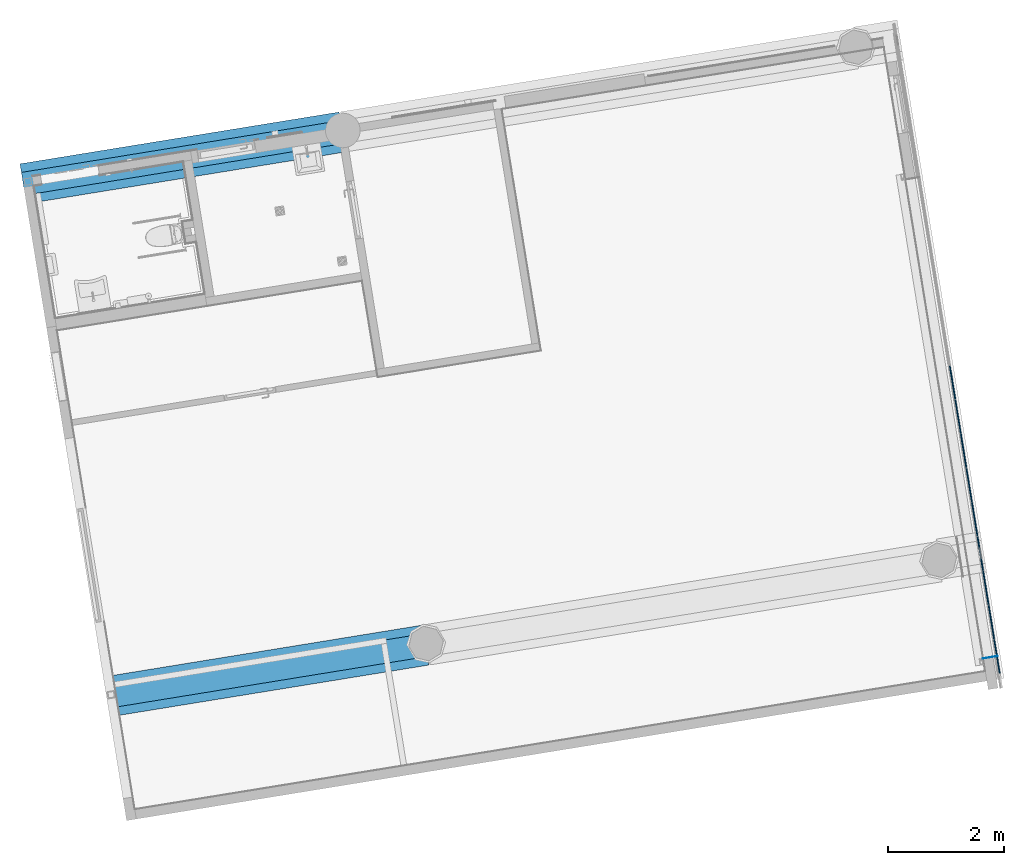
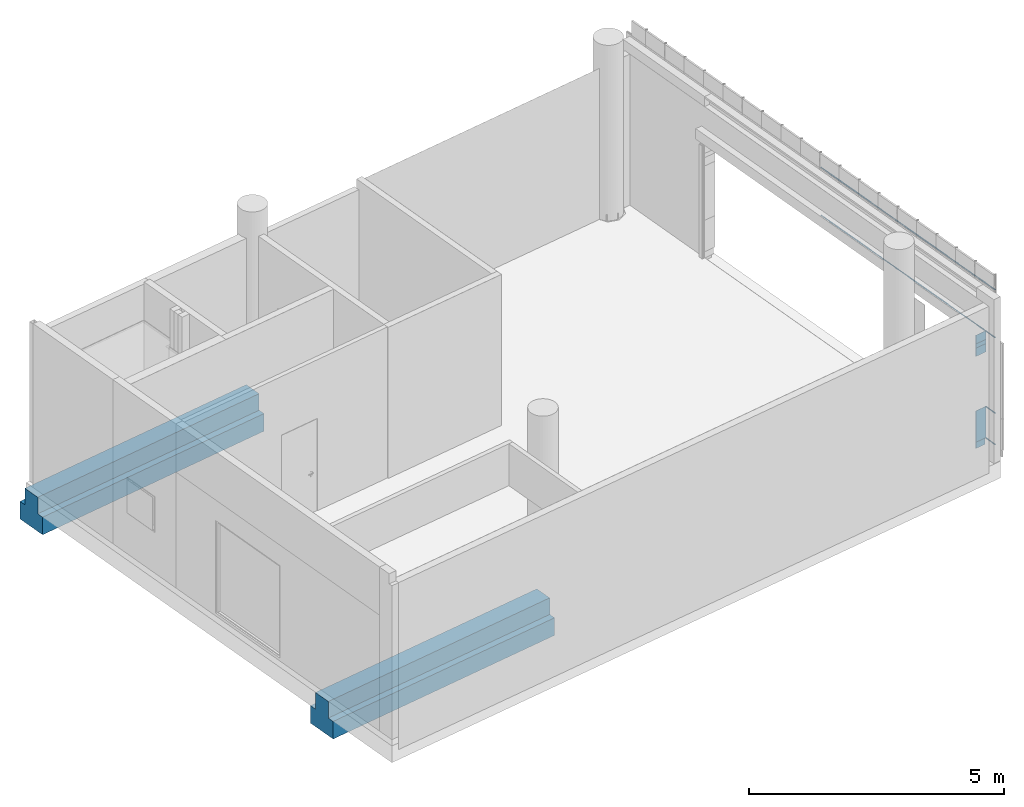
# One storey, part 12 of 38: 27 members, 2 beams, 1 element without a shape of its own.
"""IFC2X3 building model written with IfcOpenShell, lengths in millimetres."""

from ifc_helpers import new_model, entity, si_unit, converted_unit, derived_unit, direction, frame, frame_2d, origin, origin_with_axes, origin_2d_with_axis, place, context, subcontext, project, spatial, rectangle, extrude, faceted_brep, source, transform, mapped, material, type_object, element, aggregate, save


model = new_model("IFC2X3")

# Units and contexts
model_context = context("Model", 3, precision=0.01, world=origin(), true_north=direction((6.12323399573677e-17, 1.0)))
plan_context = context("Plan", 3, precision=1e-05, world=origin_with_axes())
body_context = subcontext(model_context, "Body", "Model", "MODEL_VIEW")
ifc_project = project(units=[converted_unit("PLANEANGLEUNIT", "DEGREE", entity("IfcPositiveLengthMeasure", 0.0174532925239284), si_unit("PLANEANGLEUNIT", "RADIAN"), dimensions=[0, 0, 0, 0, 0, 0, 0]), si_unit("AREAUNIT", "SQUARE_METRE"), si_unit("LENGTHUNIT", "METRE", prefix="MILLI"), si_unit("MASSUNIT", "GRAM", prefix="KILO"), si_unit("POWERUNIT", "WATT"), si_unit("PRESSUREUNIT", "PASCAL", prefix="KILO"), si_unit("FORCEUNIT", "NEWTON", prefix="KILO"), si_unit("ELECTRICVOLTAGEUNIT", "VOLT"), si_unit("ELECTRICCURRENTUNIT", "AMPERE"), si_unit("THERMODYNAMICTEMPERATUREUNIT", "DEGREE_CELSIUS"), si_unit("TIMEUNIT", "SECOND"), si_unit("VOLUMEUNIT", "CUBIC_METRE"), derived_unit("LINEARVELOCITYUNIT", [(si_unit("LENGTHUNIT", "METRE"), 1), (si_unit("TIMEUNIT", "SECOND"), -1)]), derived_unit("VOLUMETRICFLOWRATEUNIT", [(si_unit("VOLUMEUNIT", "CUBIC_METRE"), 1), (si_unit("TIMEUNIT", "SECOND"), -1)]), derived_unit("THERMALTRANSMITTANCEUNIT", [(si_unit("POWERUNIT", "WATT"), 1), (si_unit("THERMODYNAMICTEMPERATUREUNIT", "KELVIN"), -1), (si_unit("AREAUNIT", "SQUARE_METRE"), -1)]), derived_unit("SOUNDPRESSUREUNIT", [(si_unit("PRESSUREUNIT", "PASCAL"), 1)])], contexts=[model_context, plan_context])

# Site, building, storey
site_placement = place(None, frame((-0.00071070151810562, 0.00438415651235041, 0.0), z_axis=(0.0, 0.0, 1.0), x_axis=(-0.160236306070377, 0.987078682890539, 0.0)))
site = spatial("IfcSite", under=ifc_project, at=site_placement, Name="Default", CompositionType="ELEMENT")
building_placement = place(site_placement, origin_with_axes())
building = spatial("IfcBuilding", under=site, at=building_placement, Name="TOO", CompositionType="ELEMENT")
storey_placement = place(building_placement, frame((0.0, 0.0, 50999.9999999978), z_axis=(0.0, 0.0, 1.0), x_axis=(1.0, 0.0, 0.0)))
storey = spatial("IfcBuildingStorey", under=building, at=storey_placement, Name="Nivå D-H01", CompositionType="ELEMENT", Elevation=50999.9999999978)

# Curtain wall, members
curtain_wall_type = type_object("IfcCurtainWallType", Name="Curtain Wall:Curtain Wall Standard (Bruk kun denne)", PredefinedType="NOTDEFINED")
curtain_wall_placement = place(storey_placement, frame((0.0, 0.0, -50999.9999999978), z_axis=(0.0, 0.0, 1.0), x_axis=(1.0, 0.0, 0.0)))
curtain_wall = element("IfcCurtainWall", 1, at=curtain_wall_placement, inside=storey, type_object=curtain_wall_type, Name="Curtain Wall:Curtain Wall Standard (Bruk kun denne)", ObjectType="Curtain Wall:Curtain Wall Standard (Bruk kun denne)")
ifc_material_1 = material(Name="Rubber")
member_type_1 = type_object("IfcMemberType", Name="Rectangular Mullion:A246 - Fuge 5mm L09", PredefinedType="MULLION", material=ifc_material_1)
shared_shape_1 = source(origin(), body_context, "Body", "SweptSolid", [
    extrude(rectangle(XDim=5.0, YDim=20.0, at=origin_2d_with_axis()), frame((0.0, 10.0, -595.0), z_axis=(0.0, 0.0, 1.0), x_axis=(-1.0, 0.0, 0.0)), (0.0, 0.0, 1.0), 594.999999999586),
])
member_1_placement = place(curtain_wall_placement, frame((772980.119644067, -604232.480498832, 53704.9999999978), z_axis=(-1.0, 0.0, 0.0), x_axis=(0.0, 0.0, 1.0)))
member_1 = element("IfcMember", 2, at=member_1_placement, type_object=member_type_1, material=ifc_material_1, Name="Rectangular Mullion:A246 - Fuge 5mm L09", ObjectType="Rectangular Mullion:A246 - Fuge 5mm L09", context=body_context, shape_type="MappedRepresentation", body=[
    mapped(shared_shape_1, transform((0.0, 0.0, 0.0), scale=1.0)),
])
member_2_placement = place(curtain_wall_placement, frame((772380.119644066, -604232.480498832, 53704.9999999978), z_axis=(-1.0, 0.0, 0.0), x_axis=(0.0, 0.0, 1.0)))
member_2 = element("IfcMember", 3, at=member_2_placement, type_object=member_type_1, material=ifc_material_1, Name="Rectangular Mullion:A246 - Fuge 5mm L09", ObjectType="Rectangular Mullion:A246 - Fuge 5mm L09", context=body_context, shape_type="MappedRepresentation", body=[
    mapped(shared_shape_1, transform((0.0, 0.0, 0.0), scale=1.0)),
])
member_3_placement = place(curtain_wall_placement, frame((771780.119644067, -604232.480498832, 53704.9999999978), z_axis=(-1.0, 0.0, 0.0), x_axis=(0.0, 0.0, 1.0)))
member_3 = element("IfcMember", 4, at=member_3_placement, type_object=member_type_1, material=ifc_material_1, Name="Rectangular Mullion:A246 - Fuge 5mm L09", ObjectType="Rectangular Mullion:A246 - Fuge 5mm L09", context=body_context, shape_type="MappedRepresentation", body=[
    mapped(shared_shape_1, transform((0.0, 0.0, 0.0), scale=1.0)),
])
member_4_placement = place(curtain_wall_placement, frame((773580.119644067, -604232.480498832, 53704.9999999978), z_axis=(-1.0, 0.0, 0.0), x_axis=(0.0, 0.0, 1.0)))
member_4 = element("IfcMember", 5, at=member_4_placement, type_object=member_type_1, material=ifc_material_1, Name="Rectangular Mullion:A246 - Fuge 5mm L09", ObjectType="Rectangular Mullion:A246 - Fuge 5mm L09", context=body_context, shape_type="MappedRepresentation", body=[
    mapped(shared_shape_1, transform((0.0, 0.0, 0.0), scale=1.0)),
])
member_5_placement = place(curtain_wall_placement, frame((772980.119644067, -604232.480498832, 54850.0), z_axis=(-1.0, 0.0, 0.0), x_axis=(0.0, 0.0, 1.0)))
member_5 = element("IfcMember", 6, at=member_5_placement, type_object=member_type_1, material=ifc_material_1, Name="Rectangular Mullion:A246 - Fuge 5mm L09", ObjectType="Rectangular Mullion:A246 - Fuge 5mm L09", context=body_context, shape_type="MappedRepresentation", body=[
    mapped(shared_shape_1, transform((0.0, 0.0, 0.0), scale=1.0)),
])
member_6_placement = place(curtain_wall_placement, frame((772380.119644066, -604232.480498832, 54850.0), z_axis=(-1.0, 0.0, 0.0), x_axis=(0.0, 0.0, 1.0)))
member_6 = element("IfcMember", 7, at=member_6_placement, type_object=member_type_1, material=ifc_material_1, Name="Rectangular Mullion:A246 - Fuge 5mm L09", ObjectType="Rectangular Mullion:A246 - Fuge 5mm L09", context=body_context, shape_type="MappedRepresentation", body=[
    mapped(shared_shape_1, transform((0.0, 0.0, 0.0), scale=1.0)),
])
member_7_placement = place(curtain_wall_placement, frame((771180.119644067, -604232.480498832, 54850.0), z_axis=(-1.0, 0.0, 0.0), x_axis=(0.0, 0.0, 1.0)))
member_7 = element("IfcMember", 8, at=member_7_placement, type_object=member_type_1, material=ifc_material_1, Name="Rectangular Mullion:A246 - Fuge 5mm L09", ObjectType="Rectangular Mullion:A246 - Fuge 5mm L09", context=body_context, shape_type="MappedRepresentation", body=[
    mapped(shared_shape_1, transform((0.0, 0.0, 0.0), scale=1.0)),
])
member_8_placement = place(curtain_wall_placement, frame((770580.119644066, -604232.480498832, 54850.0), z_axis=(-1.0, 0.0, 0.0), x_axis=(0.0, 0.0, 1.0)))
member_8 = element("IfcMember", 9, at=member_8_placement, type_object=member_type_1, material=ifc_material_1, Name="Rectangular Mullion:A246 - Fuge 5mm L09", ObjectType="Rectangular Mullion:A246 - Fuge 5mm L09", context=body_context, shape_type="MappedRepresentation", body=[
    mapped(shared_shape_1, transform((0.0, 0.0, 0.0), scale=1.0)),
])
member_9_placement = place(curtain_wall_placement, frame((769380.119644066, -604232.480498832, 54850.0), z_axis=(-1.0, 0.0, 0.0), x_axis=(0.0, 0.0, 1.0)))
member_9 = element("IfcMember", 10, at=member_9_placement, type_object=member_type_1, material=ifc_material_1, Name="Rectangular Mullion:A246 - Fuge 5mm L09", ObjectType="Rectangular Mullion:A246 - Fuge 5mm L09", context=body_context, shape_type="MappedRepresentation", body=[
    mapped(shared_shape_1, transform((0.0, 0.0, 0.0), scale=1.0)),
])
member_10_placement = place(curtain_wall_placement, frame((771780.119644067, -604232.480498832, 54850.0), z_axis=(-1.0, 0.0, 0.0), x_axis=(0.0, 0.0, 1.0)))
member_10 = element("IfcMember", 11, at=member_10_placement, type_object=member_type_1, material=ifc_material_1, Name="Rectangular Mullion:A246 - Fuge 5mm L09", ObjectType="Rectangular Mullion:A246 - Fuge 5mm L09", context=body_context, shape_type="MappedRepresentation", body=[
    mapped(shared_shape_1, transform((0.0, 0.0, 0.0), scale=1.0)),
])
member_11_placement = place(curtain_wall_placement, frame((773580.119644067, -604232.480498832, 54850.0), z_axis=(-1.0, 0.0, 0.0), x_axis=(0.0, 0.0, 1.0)))
member_11 = element("IfcMember", 12, at=member_11_placement, type_object=member_type_1, material=ifc_material_1, Name="Rectangular Mullion:A246 - Fuge 5mm L09", ObjectType="Rectangular Mullion:A246 - Fuge 5mm L09", context=body_context, shape_type="MappedRepresentation", body=[
    mapped(shared_shape_1, transform((0.0, 0.0, 0.0), scale=1.0)),
])
member_12_placement = place(curtain_wall_placement, frame((769980.119644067, -604232.480498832, 54850.0), z_axis=(-1.0, 0.0, 0.0), x_axis=(0.0, 0.0, 1.0)))
member_12 = element("IfcMember", 13, at=member_12_placement, type_object=member_type_1, material=ifc_material_1, Name="Rectangular Mullion:A246 - Fuge 5mm L09", ObjectType="Rectangular Mullion:A246 - Fuge 5mm L09", context=body_context, shape_type="MappedRepresentation", body=[
    mapped(shared_shape_1, transform((0.0, 0.0, 0.0), scale=1.0)),
])
member_type_2 = type_object("IfcMemberType", Name="Rectangular Mullion:A246 - Fuge 5mm L09", PredefinedType="MULLION", material=ifc_material_1)
shared_shape_2 = source(origin(), body_context, "Body", "SweptSolid", [
    extrude(rectangle(XDim=5.0, YDim=20.0, at=origin_2d_with_axis()), frame((0.0, 10.0, -597.500000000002), z_axis=(0.0, 0.0, 1.0), x_axis=(-1.0, 0.0, 0.0)), (0.0, 0.0, 1.0), 597.500000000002),
])
member_13_placement = place(curtain_wall_placement, frame((771177.619644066, -604232.480498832, 53704.9999999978), z_axis=(-1.0, 0.0, 0.0), x_axis=(0.0, 0.0, 1.0)))
member_13 = element("IfcMember", 14, at=member_13_placement, type_object=member_type_2, material=ifc_material_1, Name="Rectangular Mullion:A246 - Fuge 5mm L09", ObjectType="Rectangular Mullion:A246 - Fuge 5mm L09", context=body_context, shape_type="MappedRepresentation", body=[
    mapped(shared_shape_2, transform((0.0, 0.0, 0.0), scale=1.0)),
])
member_type_3 = type_object("IfcMemberType", Name="Rectangular Mullion:A246 - Fuge 5mm L09", PredefinedType="MULLION", material=ifc_material_1)
shared_shape_3 = source(origin(), body_context, "Body", "SweptSolid", [
    extrude(rectangle(XDim=5.0, YDim=20.0, at=origin_2d_with_axis()), frame((0.0, 10.0, -600.0), z_axis=(0.0, 0.0, 1.0), x_axis=(-1.0, 0.0, 0.0)), (0.0, 0.0, 1.0), 600.000000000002),
])
member_14_placement = place(curtain_wall_placement, frame((770577.619644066, -604232.480498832, 53704.9999999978), z_axis=(-1.0, 0.0, 0.0), x_axis=(0.0, 0.0, 1.0)))
member_14 = element("IfcMember", 15, at=member_14_placement, type_object=member_type_3, material=ifc_material_1, Name="Rectangular Mullion:A246 - Fuge 5mm L09", ObjectType="Rectangular Mullion:A246 - Fuge 5mm L09", context=body_context, shape_type="MappedRepresentation", body=[
    mapped(shared_shape_3, transform((0.0, 0.0, 0.0), scale=1.0)),
])
member_15_placement = place(curtain_wall_placement, frame((769377.619644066, -604232.480498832, 53704.9999999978), z_axis=(-1.0, 0.0, 0.0), x_axis=(0.0, 0.0, 1.0)))
member_15 = element("IfcMember", 16, at=member_15_placement, type_object=member_type_3, material=ifc_material_1, Name="Rectangular Mullion:A246 - Fuge 5mm L09", ObjectType="Rectangular Mullion:A246 - Fuge 5mm L09", context=body_context, shape_type="MappedRepresentation", body=[
    mapped(shared_shape_3, transform((0.0, 0.0, 0.0), scale=1.0)),
])
member_16_placement = place(curtain_wall_placement, frame((769977.619644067, -604232.480498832, 53704.9999999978), z_axis=(-1.0, 0.0, 0.0), x_axis=(0.0, 0.0, 1.0)))
member_16 = element("IfcMember", 17, at=member_16_placement, type_object=member_type_3, material=ifc_material_1, Name="Rectangular Mullion:A246 - Fuge 5mm L09", ObjectType="Rectangular Mullion:A246 - Fuge 5mm L09", context=body_context, shape_type="MappedRepresentation", body=[
    mapped(shared_shape_3, transform((0.0, 0.0, 0.0), scale=1.0)),
])
ifc_material_2 = material(Name="A200 - Metall - Stål")
member_type_4 = type_object("IfcMemberType", Name="Rectangular Mullion:A248-M03 kantbeskyt. åpning 260", PredefinedType="MULLION", material=ifc_material_2)
shared_shape_4 = source(origin(), body_context, "Body", "SweptSolid", [
    extrude(rectangle(XDim=5.0, YDim=260.0, at=origin_2d_with_axis()), frame((0.0, 130.0, -100.0), z_axis=(0.0, 0.0, 1.0), x_axis=(-1.0, 0.0, 0.0)), (0.0, 0.0, 1.0), 100.000000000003),
])
member_17_placement = place(curtain_wall_placement, frame((769077.619644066, -604232.480498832, 53399.9999999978), z_axis=(0.0, 0.0, -1.0), x_axis=(-1.0, 0.0, 0.0)))
member_17 = element("IfcMember", 18, at=member_17_placement, type_object=member_type_4, material=ifc_material_2, Name="Rectangular Mullion:A248-M03 kantbeskyt. åpning 260", ObjectType="Rectangular Mullion:A248-M03 kantbeskyt. åpning 260", context=body_context, shape_type="MappedRepresentation", body=[
    mapped(shared_shape_4, transform((0.0, 0.0, 0.0), scale=1.0)),
])
member_type_5 = type_object("IfcMemberType", Name="Rectangular Mullion:A248-M03 kantbeskyt. åpning 260", PredefinedType="MULLION", material=ifc_material_2)
shared_shape_5 = source(origin(), body_context, "Body", "SweptSolid", [
    extrude(rectangle(XDim=5.0, YDim=260.0, at=origin_2d_with_axis()), frame((0.0, 130.0, -200.0), z_axis=(0.0, 0.0, 1.0), x_axis=(-1.0, 0.0, 0.0)), (0.0, 0.0, 1.0), 200.000000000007),
])
member_18_placement = place(curtain_wall_placement, frame((769077.619644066, -604232.480498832, 53199.9999999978), z_axis=(0.0, 0.0, -1.0), x_axis=(-1.0, 0.0, 0.0)))
member_18 = element("IfcMember", 19, at=member_18_placement, type_object=member_type_5, material=ifc_material_2, Name="Rectangular Mullion:A248-M03 kantbeskyt. åpning 260", ObjectType="Rectangular Mullion:A248-M03 kantbeskyt. åpning 260", context=body_context, shape_type="MappedRepresentation", body=[
    mapped(shared_shape_5, transform((0.0, 0.0, 0.0), scale=1.0)),
])
member_type_6 = type_object("IfcMemberType", Name="Rectangular Mullion:A248-M03 kantbeskyt. åpning 260", PredefinedType="MULLION", material=ifc_material_2)
shared_shape_6 = source(origin(), body_context, "Body", "SweptSolid", [
    extrude(rectangle(XDim=5.0, YDim=260.0, at=origin_2d_with_axis()), frame((0.0, 130.0, -750.0), z_axis=(0.0, 0.0, 1.0), x_axis=(-1.0, 0.0, 0.0)), (0.0, 0.0, 1.0), 750.000000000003),
])
member_19_placement = place(curtain_wall_placement, frame((769077.619644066, -604232.480498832, 51149.9999999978), z_axis=(0.0, 0.0, -1.0), x_axis=(-1.0, 0.0, 0.0)))
member_19 = element("IfcMember", 20, at=member_19_placement, type_object=member_type_6, material=ifc_material_2, Name="Rectangular Mullion:A248-M03 kantbeskyt. åpning 260", ObjectType="Rectangular Mullion:A248-M03 kantbeskyt. åpning 260", context=body_context, shape_type="MappedRepresentation", body=[
    mapped(shared_shape_6, transform((0.0, 0.0, 0.0), scale=1.0)),
])
member_type_7 = type_object("IfcMemberType", Name="Rectangular Mullion:A248-M03 kantbeskyt. åpning 230", PredefinedType="MULLION", material=ifc_material_2)
shared_shape_7 = source(origin(), body_context, "Body", "SweptSolid", [
    extrude(rectangle(XDim=5.0, YDim=230.0, at=frame_2d((0.0, -1.4210854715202e-14), x_axis=(1.0, 0.0))), frame((0.0, 145.0, -150.0), z_axis=(0.0, 0.0, 1.0), x_axis=(-1.0, 0.0, 0.0)), (0.0, 0.0, 1.0), 150.000000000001),
])
member_20_placement = place(curtain_wall_placement, frame((769077.619644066, -604232.480498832, 50999.9999999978), z_axis=(0.0, 0.0, -1.0), x_axis=(-1.0, 0.0, 0.0)))
member_20 = element("IfcMember", 21, at=member_20_placement, type_object=member_type_7, material=ifc_material_2, Name="Rectangular Mullion:A248-M03 kantbeskyt. åpning 230", ObjectType="Rectangular Mullion:A248-M03 kantbeskyt. åpning 230", context=body_context, shape_type="MappedRepresentation", body=[
    mapped(shared_shape_7, transform((0.0, 0.0, 0.0), scale=1.0)),
])
member_type_8 = type_object("IfcMemberType", Name="Rectangular Mullion:A248-M03 kantbeskyt. åpning 260", PredefinedType="MULLION", material=ifc_material_2)
shared_shape_8 = source(origin(), body_context, "Body", "SweptSolid", [
    extrude(rectangle(XDim=5.0, YDim=260.0, at=origin_2d_with_axis()), frame((0.0, 130.0, -207.499999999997), z_axis=(0.0, 0.0, 1.0), x_axis=(-1.0, 0.0, 0.0)), (0.0, 0.0, 1.0), 207.499999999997),
])
member_21_placement = place(curtain_wall_placement, frame((769077.619644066, -604232.480498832, 53499.9999999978), z_axis=(0.0, 0.0, -1.0), x_axis=(-1.0, 0.0, 0.0)))
member_21 = element("IfcMember", 22, at=member_21_placement, type_object=member_type_8, material=ifc_material_2, Name="Rectangular Mullion:A248-M03 kantbeskyt. åpning 260", ObjectType="Rectangular Mullion:A248-M03 kantbeskyt. åpning 260", context=body_context, shape_type="MappedRepresentation", body=[
    mapped(shared_shape_8, transform((0.0, 0.0, 0.0), scale=1.0)),
])
member_type_9 = type_object("IfcMemberType", Name="Rectangular Mullion:A246 - Fuge 5mm L09", PredefinedType="MULLION", material=ifc_material_1)
shared_shape_9 = source(origin(), body_context, "Body", "SweptSolid", [
    extrude(rectangle(XDim=5.0, YDim=20.0, at=origin_2d_with_axis()), frame((0.0, 10.0, -295.0), z_axis=(0.0, 0.0, 1.0), x_axis=(-1.0, 0.0, 0.0)), (0.0, 0.0, 1.0), 295.000000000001),
])
member_22_placement = place(curtain_wall_placement, frame((768780.119644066, -604232.480498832, 53704.9999999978), z_axis=(-1.0, 0.0, 0.0), x_axis=(0.0, 0.0, 1.0)))
member_22 = element("IfcMember", 23, at=member_22_placement, type_object=member_type_9, material=ifc_material_1, Name="Rectangular Mullion:A246 - Fuge 5mm L09", ObjectType="Rectangular Mullion:A246 - Fuge 5mm L09", context=body_context, shape_type="MappedRepresentation", body=[
    mapped(shared_shape_9, transform((0.0, 0.0, 0.0), scale=1.0)),
])
member_type_10 = type_object("IfcMemberType", Name="Rectangular Mullion:A246 - Fuge 5mm L09", PredefinedType="MULLION", material=ifc_material_1)
shared_shape_10 = source(origin(), body_context, "Body", "SweptSolid", [
    extrude(rectangle(XDim=5.0, YDim=20.0, at=origin_2d_with_axis()), frame((0.0, 10.0, -297.500000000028), z_axis=(0.0, 0.0, 1.0), x_axis=(-1.0, 0.0, 0.0)), (0.0, 0.0, 1.0), 297.500000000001),
])
member_23_placement = place(curtain_wall_placement, frame((769080.119644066, -604232.480498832, 53704.9999999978), z_axis=(-1.0, 0.0, 0.0), x_axis=(0.0, 0.0, 1.0)))
member_23 = element("IfcMember", 24, at=member_23_placement, type_object=member_type_10, material=ifc_material_1, Name="Rectangular Mullion:A246 - Fuge 5mm L09", ObjectType="Rectangular Mullion:A246 - Fuge 5mm L09", context=body_context, shape_type="MappedRepresentation", body=[
    mapped(shared_shape_10, transform((0.0, 0.0, 0.0), scale=1.0)),
])
member_type_11 = type_object("IfcMemberType", Name="Rectangular Mullion:A246 - Fuge 5mm L09", PredefinedType="MULLION", material=ifc_material_1)
member_24_placement = place(curtain_wall_placement, frame((768780.119644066, -604232.480498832, 54850.0), z_axis=(-1.0, 0.0, 0.0), x_axis=(0.0, 0.0, 1.0)))
member_24 = element("IfcMember", 25, at=member_24_placement, type_object=member_type_11, material=ifc_material_1, Name="Rectangular Mullion:A246 - Fuge 5mm L09", ObjectType="Rectangular Mullion:A246 - Fuge 5mm L09", context=body_context, shape_type="MappedRepresentation", body=[
    mapped(shared_shape_10, transform((0.0, 0.0, 0.0), scale=1.0)),
])
member_type_12 = type_object("IfcMemberType", Name="Rectangular Mullion:A246 - Fuge 5mm L09", PredefinedType="MULLION", material=ifc_material_1)
shared_shape_11 = source(origin(), body_context, "Body", "SweptSolid", [
    extrude(rectangle(XDim=5.0, YDim=20.0, at=origin_2d_with_axis()), frame((0.0, 10.0, -297.500000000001), z_axis=(0.0, 0.0, 1.0), x_axis=(-1.0, 0.0, 0.0)), (0.0, 0.0, 1.0), 297.500000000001),
])
member_25_placement = place(curtain_wall_placement, frame((768777.619644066, -604232.480498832, 51149.9999999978), z_axis=(-1.0, 0.0, 0.0), x_axis=(0.0, 0.0, 1.0)))
member_25 = element("IfcMember", 26, at=member_25_placement, type_object=member_type_12, material=ifc_material_1, Name="Rectangular Mullion:A246 - Fuge 5mm L09", ObjectType="Rectangular Mullion:A246 - Fuge 5mm L09", context=body_context, shape_type="MappedRepresentation", body=[
    mapped(shared_shape_11, transform((0.0, 0.0, 0.0), scale=1.0)),
])
member_26_placement = place(curtain_wall_placement, frame((768777.619644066, -604232.480498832, 51899.9999999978), z_axis=(-1.0, 0.0, 0.0), x_axis=(0.0, 0.0, 1.0)))
member_26 = element("IfcMember", 27, at=member_26_placement, type_object=member_type_12, material=ifc_material_1, Name="Rectangular Mullion:A246 - Fuge 5mm L09", ObjectType="Rectangular Mullion:A246 - Fuge 5mm L09", context=body_context, shape_type="MappedRepresentation", body=[
    mapped(shared_shape_11, transform((0.0, 0.0, 0.0), scale=1.0)),
])
member_27_placement = place(curtain_wall_placement, frame((769077.619644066, -604232.480498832, 54850.0), z_axis=(-1.0, 0.0, 0.0), x_axis=(0.0, 0.0, 1.0)))
member_27 = element("IfcMember", 28, at=member_27_placement, type_object=member_type_12, material=ifc_material_1, Name="Rectangular Mullion:A246 - Fuge 5mm L09", ObjectType="Rectangular Mullion:A246 - Fuge 5mm L09", context=body_context, shape_type="MappedRepresentation", body=[
    mapped(shared_shape_11, transform((0.0, 0.0, 0.0), scale=1.0)),
])
aggregate(curtain_wall, [member_1, member_2, member_13, member_14, member_15, member_17, member_18, member_19, member_20, member_21, member_3, member_4, member_16, member_23, member_25, member_22, member_26, member_5, member_6, member_7, member_8, member_9, member_24, member_10, member_11, member_12, member_27])

# Beams
beam_type = type_object("IfcBeamType", Name="A223 - DLB Prefab. Betongbjelke:A223 - DLB Prefab. Betongbjelke - 815 x 700 x 400 mm", PredefinedType="BEAM")
for number, where, z_axis, x_axis in (
    (29, (779852.619644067, -585502.480498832, -225.0), (0.0, 0.0, 1.0), (0.0, -1.0, 0.0)),
    (30, (770852.619644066, -585502.480498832, -225.0), (0.0, 0.0, 1.0), (0.0, -1.0, 0.0)),
):
    element("IfcBeam", number, at=place(storey_placement, frame(where, z_axis=z_axis, x_axis=x_axis)), inside=storey, type_object=beam_type, Name="A223 - DLB Prefab. Betongbjelke:A223 - DLB Prefab. Betongbjelke - 815 x 700 x 400 mm", ObjectType="A223 - DLB Prefab. Betongbjelke:A223 - DLB Prefab. Betongbjelke - 815 x 700 x 400 mm", context=body_context, shape_type="Brep", body=[
        faceted_brep([(3390.00123999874, -350.0, -395.000000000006), (3390.00123999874, -200.0, -395.000000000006), (8987.29999939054, -200.0, -395.000000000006), (8987.29999939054, -350.0, -395.000000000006), (3390.00123999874, -350.0, -815.000000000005), (8987.29999939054, -350.0, -815.000000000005), (3390.00123999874, 350.0, -815.000000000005), (8987.29999939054, 350.0, -815.000000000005), (3390.00123999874, 350.0, -395.000000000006), (8987.29999939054, 350.0, -395.000000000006), (3390.00123999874, 200.0, -395.000000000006), (8987.29999939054, 200.0, -395.000000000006), (3390.00123999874, 200.0, -8.75388650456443e-12), (8987.29999939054, 200.0, -8.75388650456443e-12), (3390.00123999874, -200.0, -8.75388650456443e-12), (8987.29999939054, -200.0, -8.75388650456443e-12)], [[[0, 1, 2, 3]], [[4, 0, 3, 5]], [[6, 4, 5, 7]], [[8, 6, 7, 9]], [[10, 8, 9, 11]], [[12, 10, 11, 13]], [[14, 12, 13, 15]], [[1, 14, 15, 2]], [[3, 2, 15, 13, 11, 9, 7, 5]], [[4, 6, 8, 10, 12, 14, 1, 0]]], orient=[[False], [False], [False], [False], [False], [False], [False], [False], [False], [False]]),
    ])

save(model, "model.ifc")
